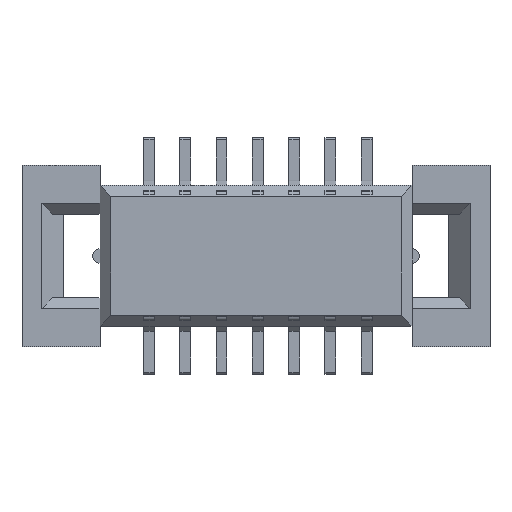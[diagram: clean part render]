
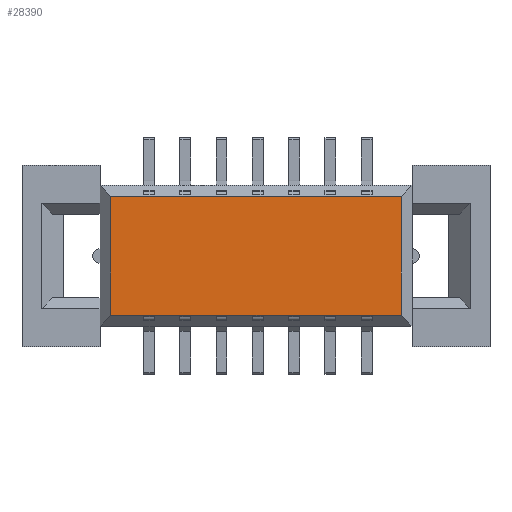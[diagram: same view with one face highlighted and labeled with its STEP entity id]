
A CAD part, top view. The second image highlights one B-rep face of the part: STEP entity #28390.
In plain terms, the highlighted planar face has unit normal (0, 0, 1).
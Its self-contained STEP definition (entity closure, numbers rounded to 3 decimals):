
#9840=CARTESIAN_POINT('',(-2.,0.82,0.575));
#9850=VERTEX_POINT('',#9840);
#9880=CARTESIAN_POINT('',(-2.,0.82,0.575));
#9890=DIRECTION('',(0.,-1.,0.));
#9900=VECTOR('',#9890,1.);
#9910=LINE('',#9880,#9900);
#9920=CARTESIAN_POINT('',(-2.,-0.82,0.575));
#9930=VERTEX_POINT('',#9920);
#9940=EDGE_CURVE('',#9850,#9930,#9910,.T.);
#16100=CARTESIAN_POINT('',(2.,0.82,0.575));
#16110=VERTEX_POINT('',#16100);
#16140=CARTESIAN_POINT('',(-1.565,0.82,0.575));
#16150=DIRECTION('',(-1.,0.,0.));
#16160=VECTOR('',#16150,1.);
#16170=LINE('',#16140,#16160);
#16180=EDGE_CURVE('',#16110,#9850,#16170,.T.);
#25360=CARTESIAN_POINT('',(-2.,-0.82,0.575));
#25370=DIRECTION('',(1.,0.,0.));
#25380=VECTOR('',#25370,1.);
#25390=LINE('',#25360,#25380);
#25400=CARTESIAN_POINT('',(2.,-0.82,0.575));
#25410=VERTEX_POINT('',#25400);
#25420=EDGE_CURVE('',#9930,#25410,#25390,.T.);
#28160=CARTESIAN_POINT('',(2.,-0.82,0.575));
#28170=DIRECTION('',(0.,1.,0.));
#28180=VECTOR('',#28170,1.);
#28190=LINE('',#28160,#28180);
#28200=EDGE_CURVE('',#25410,#16110,#28190,.T.);
#28280=CARTESIAN_POINT('',(1.615,-0.23,0.575));
#28290=DIRECTION('',(0.,0.,1.));
#28300=DIRECTION('',(0.,-1.,0.));
#28310=AXIS2_PLACEMENT_3D('',#28280,#28290,#28300);
#28320=PLANE('',#28310);
#28330=ORIENTED_EDGE('',*,*,#28200,.T.);
#28340=ORIENTED_EDGE('',*,*,#25420,.T.);
#28350=ORIENTED_EDGE('',*,*,#9940,.T.);
#28360=ORIENTED_EDGE('',*,*,#16180,.T.);
#28370=EDGE_LOOP('',(#28360,#28350,#28340,#28330));
#28380=FACE_OUTER_BOUND('',#28370,.T.);
#28390=ADVANCED_FACE('',(#28380),#28320,.T.);
